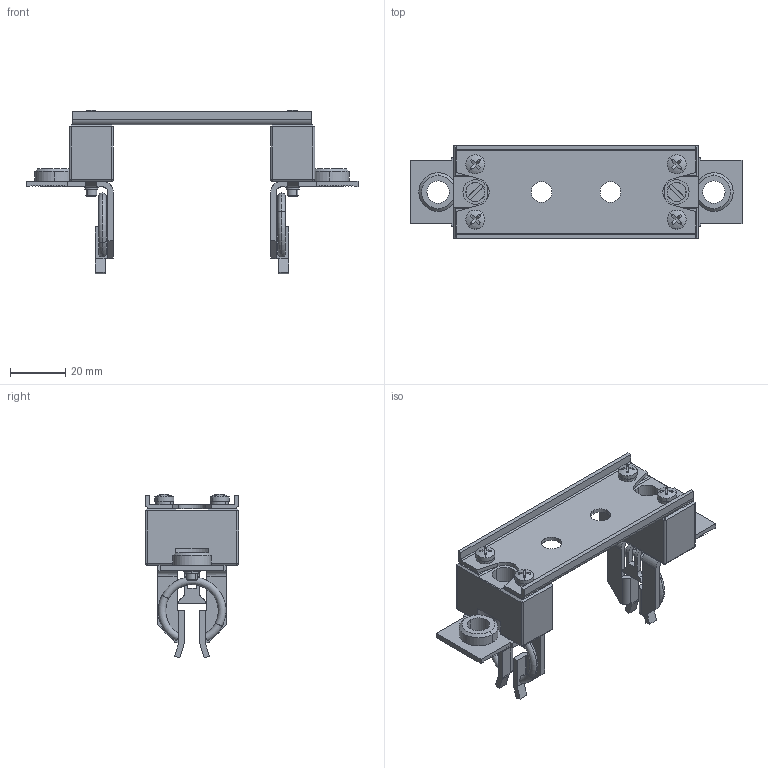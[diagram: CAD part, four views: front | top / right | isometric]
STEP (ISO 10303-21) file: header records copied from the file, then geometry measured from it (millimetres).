
FILE_DESCRIPTION (( 'STEP AP214' ), '1' );
FILE_NAME ('SPF00.step', '2011-08-12T12:26:19', ( 'Radek Veselý' ), ( 'Siemens and Partners' ), 'SwSTEP 2.0', 'SolidWorks 2006303', '' );
FILE_SCHEMA (( 'AUTOMOTIVE_DESIGN' ));
Length unit declared in the file: millimetre
Products named in the file (1): SPF00
Bounding box: 120.4 x 34 x 59.27 mm (x, y, z)
Volume: 31906.4 mm3; surface area: 25475.5 mm2
Topology: 21 solids, 21 shells, 812 faces, 2096 edges, 1320 vertices
Faces by surface type: plane 452, cylinder 234, torus 60, cone 46, sphere 20
Entity records: 34091 total; most frequent: CARTESIAN_POINT 5163, DIRECTION 4182, ORIENTED_EDGE 4132, EDGE_CURVE 2066, AXIS2_PLACEMENT_3D 1491, VERTEX_POINT 1320, VECTOR 1200, LINE 1200
